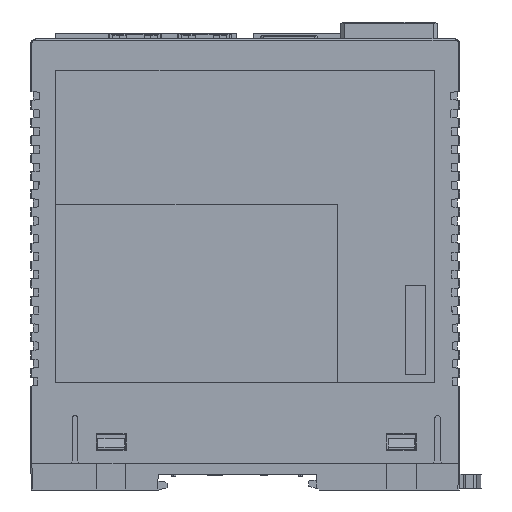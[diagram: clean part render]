
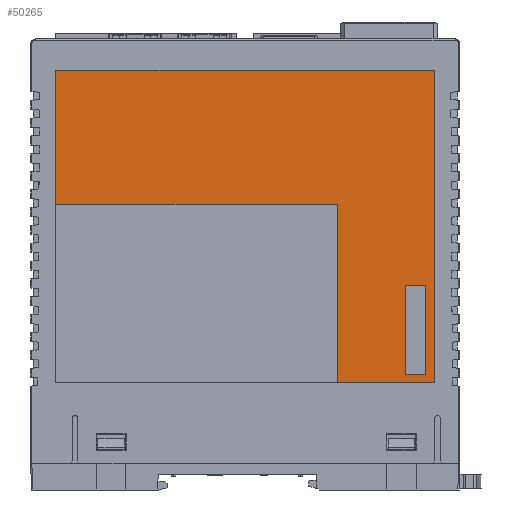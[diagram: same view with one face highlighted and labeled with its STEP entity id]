
A CAD part, left-side view. The second image highlights one B-rep face of the part: STEP entity #50265.
In plain terms, the highlighted planar face has unit normal (-1, 0, 0).
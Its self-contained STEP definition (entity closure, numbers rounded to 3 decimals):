
#13 = VERTEX_POINT ( 'NONE', #159695 ) ;
#1893 = VERTEX_POINT ( 'NONE', #239062 ) ;
#3679 = ORIENTED_EDGE ( 'NONE', *, *, #174404, .T. ) ;
#4262 = LINE ( 'NONE', #27217, #56538 ) ;
#7288 = CARTESIAN_POINT ( 'NONE',  ( -35.9, -42.4, 18. ) ) ;
#10954 = CARTESIAN_POINT ( 'NONE',  ( -35.9, 42.4, 88. ) ) ;
#15737 = CARTESIAN_POINT ( 'NONE',  ( -35.9, -42.4, 18. ) ) ;
#22720 = EDGE_CURVE ( 'NONE', #144590, #63035, #88627, .T. ) ;
#24334 = DIRECTION ( 'NONE',  ( 0., 1., 0. ) ) ;
#25091 = DIRECTION ( 'NONE',  ( 0., 1., 0. ) ) ;
#26638 = CARTESIAN_POINT ( 'NONE',  ( -35.9, 42.39, 58.01 ) ) ;
#27217 = CARTESIAN_POINT ( 'NONE',  ( -35.9, -40.4, 19.8 ) ) ;
#32499 = ORIENTED_EDGE ( 'NONE', *, *, #32876, .F. ) ;
#32527 = VERTEX_POINT ( 'NONE', #69479 ) ;
#32659 = DIRECTION ( 'NONE',  ( 0., 0., -1. ) ) ;
#32876 = EDGE_CURVE ( 'NONE', #172524, #125896, #110385, .T. ) ;
#38868 = CARTESIAN_POINT ( 'NONE',  ( -35.9, 42.39, 18.01 ) ) ;
#43828 = EDGE_CURVE ( 'NONE', #169819, #180453, #253326, .T. ) ;
#50265 = ADVANCED_FACE ( 'NONE', ( #137277, #91160, #241851 ), #210911, .T. ) ;
#51864 = ORIENTED_EDGE ( 'NONE', *, *, #219594, .T. ) ;
#53281 = CARTESIAN_POINT ( 'NONE',  ( -35.9, -35.9, 19.8 ) ) ;
#56538 = VECTOR ( 'NONE', #87316, 1000. ) ;
#56658 = VECTOR ( 'NONE', #133443, 1000. ) ;
#57046 = CARTESIAN_POINT ( 'NONE',  ( -35.9, 42.39, 58.01 ) ) ;
#60510 = CARTESIAN_POINT ( 'NONE',  ( -35.9, 42.4, 18. ) ) ;
#63035 = VERTEX_POINT ( 'NONE', #60510 ) ;
#64260 = VECTOR ( 'NONE', #217986, 1000. ) ;
#69479 = CARTESIAN_POINT ( 'NONE',  ( -35.9, -40.4, 19.8 ) ) ;
#72353 = DIRECTION ( 'NONE',  ( 0., 0., -1. ) ) ;
#75823 = VECTOR ( 'NONE', #144369, 1000. ) ;
#76997 = ORIENTED_EDGE ( 'NONE', *, *, #237107, .T. ) ;
#83499 = CARTESIAN_POINT ( 'NONE',  ( -35.9, 42.39, 18.01 ) ) ;
#87316 = DIRECTION ( 'NONE',  ( 0., 0., 1. ) ) ;
#88394 = ORIENTED_EDGE ( 'NONE', *, *, #99102, .T. ) ;
#88627 = LINE ( 'NONE', #229583, #187040 ) ;
#89909 = VECTOR ( 'NONE', #92778, 1000. ) ;
#90458 = EDGE_LOOP ( 'NONE', ( #122114, #167518, #32499, #168632 ) ) ;
#91160 = FACE_OUTER_BOUND ( 'NONE', #240064, .T. ) ;
#92778 = DIRECTION ( 'NONE',  ( 0., 0., -1. ) ) ;
#93148 = DIRECTION ( 'NONE',  ( -1., 0., 0. ) ) ;
#94379 = VECTOR ( 'NONE', #112822, 1000. ) ;
#96472 = VECTOR ( 'NONE', #25091, 1000. ) ;
#96827 = VERTEX_POINT ( 'NONE', #176257 ) ;
#97979 = ORIENTED_EDGE ( 'NONE', *, *, #116062, .T. ) ;
#99102 = EDGE_CURVE ( 'NONE', #96827, #169819, #191773, .T. ) ;
#100225 = CARTESIAN_POINT ( 'NONE',  ( -35.9, -35.9, 39.8 ) ) ;
#101195 = VERTEX_POINT ( 'NONE', #7288 ) ;
#104663 = ORIENTED_EDGE ( 'NONE', *, *, #43828, .T. ) ;
#110385 = LINE ( 'NONE', #100225, #64260 ) ;
#112822 = DIRECTION ( 'NONE',  ( 0., -1., 0. ) ) ;
#116062 = EDGE_CURVE ( 'NONE', #1893, #144590, #186524, .T. ) ;
#121861 = LINE ( 'NONE', #26638, #75823 ) ;
#122114 = ORIENTED_EDGE ( 'NONE', *, *, #126201, .F. ) ;
#125896 = VERTEX_POINT ( 'NONE', #238296 ) ;
#126201 = EDGE_CURVE ( 'NONE', #203271, #32527, #240162, .T. ) ;
#129414 = VECTOR ( 'NONE', #210667, 1000. ) ;
#131483 = EDGE_CURVE ( 'NONE', #32527, #172524, #4262, .T. ) ;
#133443 = DIRECTION ( 'NONE',  ( 0., 0., 1. ) ) ;
#137277 = FACE_BOUND ( 'NONE', #90458, .T. ) ;
#144369 = DIRECTION ( 'NONE',  ( 0., 0., 1. ) ) ;
#144590 = VERTEX_POINT ( 'NONE', #10954 ) ;
#145643 = VECTOR ( 'NONE', #32659, 1000. ) ;
#146719 = LINE ( 'NONE', #210855, #94379 ) ;
#150427 = CARTESIAN_POINT ( 'NONE',  ( -35.9, -20.61, 58.01 ) ) ;
#151645 = CARTESIAN_POINT ( 'NONE',  ( -35.9, 0., 0. ) ) ;
#157813 = VECTOR ( 'NONE', #194560, 1000. ) ;
#159695 = CARTESIAN_POINT ( 'NONE',  ( -35.9, 42.39, 58.01 ) ) ;
#161884 = CARTESIAN_POINT ( 'NONE',  ( -35.9, -42.4, 88. ) ) ;
#167518 = ORIENTED_EDGE ( 'NONE', *, *, #184578, .F. ) ;
#168632 = ORIENTED_EDGE ( 'NONE', *, *, #131483, .F. ) ;
#169819 = VERTEX_POINT ( 'NONE', #174069 ) ;
#172524 = VERTEX_POINT ( 'NONE', #229935 ) ;
#174069 = CARTESIAN_POINT ( 'NONE',  ( -35.9, -20.61, 18.01 ) ) ;
#174404 = EDGE_CURVE ( 'NONE', #101195, #1893, #207348, .T. ) ;
#176257 = CARTESIAN_POINT ( 'NONE',  ( -35.9, -20.61, 58.01 ) ) ;
#180293 = VECTOR ( 'NONE', #24334, 1000. ) ;
#180453 = VERTEX_POINT ( 'NONE', #38868 ) ;
#184578 = EDGE_CURVE ( 'NONE', #125896, #203271, #194497, .T. ) ;
#186524 = LINE ( 'NONE', #161884, #180293 ) ;
#187040 = VECTOR ( 'NONE', #72353, 1000. ) ;
#191592 = AXIS2_PLACEMENT_3D ( 'NONE', #151645, #93148, #230627 ) ;
#191773 = LINE ( 'NONE', #150427, #145643 ) ;
#194497 = LINE ( 'NONE', #53281, #89909 ) ;
#194560 = DIRECTION ( 'NONE',  ( 0., -1., 0. ) ) ;
#196392 = EDGE_LOOP ( 'NONE', ( #88394, #104663, #76997, #220685 ) ) ;
#203271 = VERTEX_POINT ( 'NONE', #247020 ) ;
#203884 = LINE ( 'NONE', #57046, #157813 ) ;
#204989 = EDGE_CURVE ( 'NONE', #13, #96827, #203884, .T. ) ;
#207348 = LINE ( 'NONE', #15737, #56658 ) ;
#210667 = DIRECTION ( 'NONE',  ( 0., -1., 0. ) ) ;
#210855 = CARTESIAN_POINT ( 'NONE',  ( -35.9, 42.4, 18. ) ) ;
#210911 = PLANE ( 'NONE',  #191592 ) ;
#217986 = DIRECTION ( 'NONE',  ( 0., 1., 0. ) ) ;
#219594 = EDGE_CURVE ( 'NONE', #63035, #101195, #146719, .T. ) ;
#220685 = ORIENTED_EDGE ( 'NONE', *, *, #204989, .T. ) ;
#229583 = CARTESIAN_POINT ( 'NONE',  ( -35.9, 42.4, 88. ) ) ;
#229935 = CARTESIAN_POINT ( 'NONE',  ( -35.9, -40.4, 39.8 ) ) ;
#230627 = DIRECTION ( 'NONE',  ( 0., 0., 1. ) ) ;
#237107 = EDGE_CURVE ( 'NONE', #180453, #13, #121861, .T. ) ;
#238296 = CARTESIAN_POINT ( 'NONE',  ( -35.9, -35.9, 39.8 ) ) ;
#239062 = CARTESIAN_POINT ( 'NONE',  ( -35.9, -42.4, 88. ) ) ;
#240064 = EDGE_LOOP ( 'NONE', ( #248877, #51864, #3679, #97979 ) ) ;
#240162 = LINE ( 'NONE', #249321, #129414 ) ;
#241851 = FACE_BOUND ( 'NONE', #196392, .T. ) ;
#247020 = CARTESIAN_POINT ( 'NONE',  ( -35.9, -35.9, 19.8 ) ) ;
#248877 = ORIENTED_EDGE ( 'NONE', *, *, #22720, .T. ) ;
#249321 = CARTESIAN_POINT ( 'NONE',  ( -35.9, -35.9, 19.8 ) ) ;
#253326 = LINE ( 'NONE', #83499, #96472 ) ;
